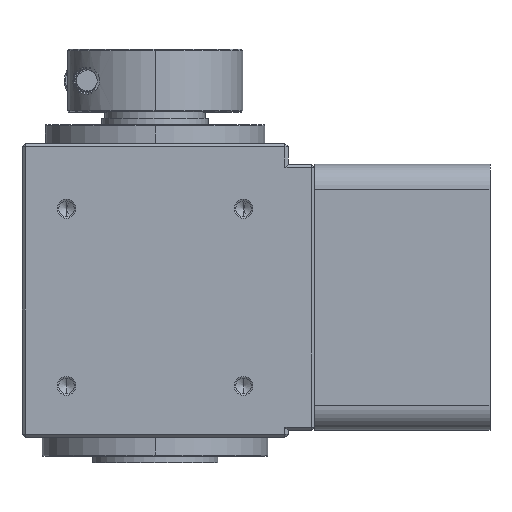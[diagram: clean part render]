
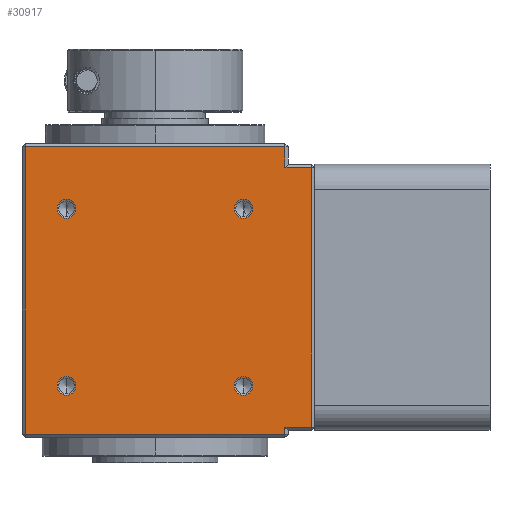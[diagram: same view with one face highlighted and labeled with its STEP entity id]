
A CAD part, left-side view. The second image highlights one B-rep face of the part: STEP entity #30917.
In plain terms, the highlighted planar face has unit normal (-1, 0, 0) as drawn and (1, 0, 0) by its records, which use the part's own axes.
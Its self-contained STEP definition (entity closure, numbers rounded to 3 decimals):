
#44 = EDGE_CURVE ( 'NONE', #36741, #26843, #20372, .T. ) ;
#241 = ORIENTED_EDGE ( 'NONE', *, *, #31885, .T. ) ;
#384 = EDGE_CURVE ( 'NONE', #19341, #25240, #38562, .T. ) ;
#635 = CARTESIAN_POINT ( 'NONE',  ( 21.25, 14.142, 41.742 ) ) ;
#690 = DIRECTION ( 'NONE',  ( 0., 0., -1. ) ) ;
#691 = EDGE_CURVE ( 'NONE', #18721, #19990, #4884, .T. ) ;
#1015 = VERTEX_POINT ( 'NONE', #34637 ) ;
#1069 = VECTOR ( 'NONE', #7686, 1000. ) ;
#1073 = DIRECTION ( 'NONE',  ( 0., 0., -1. ) ) ;
#2012 = VECTOR ( 'NONE', #14882, 1000. ) ;
#2818 = AXIS2_PLACEMENT_3D ( 'NONE', #16964, #23906, #37990 ) ;
#2973 = EDGE_LOOP ( 'NONE', ( #5615, #28570 ) ) ;
#3079 = DIRECTION ( 'NONE',  ( -1., 0., 0. ) ) ;
#3448 = ORIENTED_EDGE ( 'NONE', *, *, #10762, .T. ) ;
#3676 = CARTESIAN_POINT ( 'NONE',  ( 21.25, -21.25, 53. ) ) ;
#3906 = AXIS2_PLACEMENT_3D ( 'NONE', #42025, #45594, #24795 ) ;
#4258 = CARTESIAN_POINT ( 'NONE',  ( 21.25, 14.142, 41.742 ) ) ;
#4350 = ORIENTED_EDGE ( 'NONE', *, *, #24270, .T. ) ;
#4884 = CIRCLE ( 'NONE', #2818, 1.5 ) ;
#5037 = VERTEX_POINT ( 'NONE', #38879 ) ;
#5615 = ORIENTED_EDGE ( 'NONE', *, *, #7403, .F. ) ;
#5861 = ORIENTED_EDGE ( 'NONE', *, *, #26280, .T. ) ;
#6062 = DIRECTION ( 'NONE',  ( 0., 0., -1. ) ) ;
#6571 = FACE_BOUND ( 'NONE', #17744, .T. ) ;
#6663 = EDGE_CURVE ( 'NONE', #25240, #41050, #45424, .T. ) ;
#6786 = CARTESIAN_POINT ( 'NONE',  ( 21.25, 14.142, 11.958 ) ) ;
#7403 = EDGE_CURVE ( 'NONE', #1015, #25729, #32620, .T. ) ;
#7686 = DIRECTION ( 'NONE',  ( 0., 1., 0. ) ) ;
#7726 = DIRECTION ( 'NONE',  ( 1., 0., 0. ) ) ;
#7888 = CIRCLE ( 'NONE', #21883, 1.5 ) ;
#8305 = VERTEX_POINT ( 'NONE', #43756 ) ;
#8831 = CARTESIAN_POINT ( 'NONE',  ( 21.25, 14.142, 43.242 ) ) ;
#9479 = CARTESIAN_POINT ( 'NONE',  ( 21.25, -14.142, 40.242 ) ) ;
#9984 = EDGE_CURVE ( 'NONE', #5037, #12889, #31337, .T. ) ;
#10468 = VERTEX_POINT ( 'NONE', #33596 ) ;
#10588 = DIRECTION ( 'NONE',  ( 0., 0., -1. ) ) ;
#10762 = EDGE_CURVE ( 'NONE', #26843, #16111, #40158, .T. ) ;
#11249 = ORIENTED_EDGE ( 'NONE', *, *, #44, .T. ) ;
#11372 = LINE ( 'NONE', #14729, #2012 ) ;
#11489 = FACE_BOUND ( 'NONE', #25896, .T. ) ;
#11669 = CARTESIAN_POINT ( 'NONE',  ( 21.25, -20.75, 6.85 ) ) ;
#11772 = DIRECTION ( 'NONE',  ( 0., 0., -1. ) ) ;
#12097 = VERTEX_POINT ( 'NONE', #9479 ) ;
#12667 = AXIS2_PLACEMENT_3D ( 'NONE', #39883, #18707, #11772 ) ;
#12889 = VERTEX_POINT ( 'NONE', #40761 ) ;
#12912 = LINE ( 'NONE', #24371, #43889 ) ;
#13025 = CIRCLE ( 'NONE', #16034, 1.5 ) ;
#13767 = EDGE_CURVE ( 'NONE', #41050, #41184, #28455, .T. ) ;
#14326 = CARTESIAN_POINT ( 'NONE',  ( 21.25, -21.25, 6.85 ) ) ;
#14549 = AXIS2_PLACEMENT_3D ( 'NONE', #20573, #30793, #16592 ) ;
#14720 = VECTOR ( 'NONE', #42007, 1000. ) ;
#14729 = CARTESIAN_POINT ( 'NONE',  ( 21.25, 21.25, 3.5 ) ) ;
#14882 = DIRECTION ( 'NONE',  ( 0., 1., 0. ) ) ;
#15064 = ORIENTED_EDGE ( 'NONE', *, *, #44789, .F. ) ;
#15513 = CIRCLE ( 'NONE', #35647, 1.5 ) ;
#15851 = ORIENTED_EDGE ( 'NONE', *, *, #691, .F. ) ;
#16034 = AXIS2_PLACEMENT_3D ( 'NONE', #31186, #41258, #6062 ) ;
#16111 = VERTEX_POINT ( 'NONE', #27638 ) ;
#16592 = DIRECTION ( 'NONE',  ( 0., 0., -1. ) ) ;
#16964 = CARTESIAN_POINT ( 'NONE',  ( 21.25, 14.142, 13.458 ) ) ;
#17138 = CARTESIAN_POINT ( 'NONE',  ( 21.25, -21.25, 49.5 ) ) ;
#17249 = CARTESIAN_POINT ( 'NONE',  ( 21.25, -25.5, 48.35 ) ) ;
#17255 = ORIENTED_EDGE ( 'NONE', *, *, #384, .T. ) ;
#17744 = EDGE_LOOP ( 'NONE', ( #15064, #15851 ) ) ;
#17970 = ORIENTED_EDGE ( 'NONE', *, *, #6663, .T. ) ;
#18366 = EDGE_CURVE ( 'NONE', #25729, #1015, #15513, .T. ) ;
#18479 = ORIENTED_EDGE ( 'NONE', *, *, #33117, .F. ) ;
#18707 = DIRECTION ( 'NONE',  ( 1., 0., 0. ) ) ;
#18721 = VERTEX_POINT ( 'NONE', #41483 ) ;
#19341 = VERTEX_POINT ( 'NONE', #28918 ) ;
#19990 = VERTEX_POINT ( 'NONE', #6786 ) ;
#20372 = LINE ( 'NONE', #14326, #1069 ) ;
#20573 = CARTESIAN_POINT ( 'NONE',  ( 21.25, -14.142, 41.742 ) ) ;
#20771 = DIRECTION ( 'NONE',  ( 0., 0., 1. ) ) ;
#20864 = FACE_OUTER_BOUND ( 'NONE', #32766, .T. ) ;
#21276 = AXIS2_PLACEMENT_3D ( 'NONE', #3676, #3079, #20771 ) ;
#21412 = VECTOR ( 'NONE', #41680, 1000. ) ;
#21813 = VECTOR ( 'NONE', #27114, 1000. ) ;
#21883 = AXIS2_PLACEMENT_3D ( 'NONE', #43403, #36405, #1073 ) ;
#23089 = FACE_BOUND ( 'NONE', #33884, .T. ) ;
#23447 = ORIENTED_EDGE ( 'NONE', *, *, #13767, .T. ) ;
#23906 = DIRECTION ( 'NONE',  ( 1., 0., 0. ) ) ;
#24270 = EDGE_CURVE ( 'NONE', #16111, #19341, #11372, .T. ) ;
#24371 = CARTESIAN_POINT ( 'NONE',  ( 21.25, -25., 53. ) ) ;
#24637 = CARTESIAN_POINT ( 'NONE',  ( 21.25, -20.75, 49.5 ) ) ;
#24755 = PLANE ( 'NONE',  #21276 ) ;
#24795 = DIRECTION ( 'NONE',  ( 0., 0., -1. ) ) ;
#25162 = CIRCLE ( 'NONE', #14549, 1.5 ) ;
#25240 = VERTEX_POINT ( 'NONE', #29355 ) ;
#25729 = VERTEX_POINT ( 'NONE', #8831 ) ;
#25896 = EDGE_LOOP ( 'NONE', ( #30252, #40249 ) ) ;
#26010 = AXIS2_PLACEMENT_3D ( 'NONE', #4258, #29392, #690 ) ;
#26280 = EDGE_CURVE ( 'NONE', #8305, #36741, #12912, .T. ) ;
#26843 = VERTEX_POINT ( 'NONE', #11669 ) ;
#27114 = DIRECTION ( 'NONE',  ( 0., 0., -1. ) ) ;
#27304 = CARTESIAN_POINT ( 'NONE',  ( 21.25, -25., 6.85 ) ) ;
#27638 = CARTESIAN_POINT ( 'NONE',  ( 21.25, -20.75, 3.5 ) ) ;
#28056 = FACE_BOUND ( 'NONE', #2973, .T. ) ;
#28174 = CARTESIAN_POINT ( 'NONE',  ( 21.25, -20.75, 53. ) ) ;
#28244 = DIRECTION ( 'NONE',  ( 0., -1., 0. ) ) ;
#28455 = LINE ( 'NONE', #33905, #21813 ) ;
#28570 = ORIENTED_EDGE ( 'NONE', *, *, #18366, .F. ) ;
#28918 = CARTESIAN_POINT ( 'NONE',  ( 21.25, 20.75, 3.5 ) ) ;
#29355 = CARTESIAN_POINT ( 'NONE',  ( 21.25, 20.75, 49.5 ) ) ;
#29392 = DIRECTION ( 'NONE',  ( 1., 0., 0. ) ) ;
#30252 = ORIENTED_EDGE ( 'NONE', *, *, #43057, .F. ) ;
#30793 = DIRECTION ( 'NONE',  ( 1., 0., 0. ) ) ;
#30917 = ADVANCED_FACE ( 'NONE', ( #20864, #11489, #23089, #28056, #6571 ), #24755, .F. ) ;
#30977 = CARTESIAN_POINT ( 'NONE',  ( 21.25, 20.75, 53. ) ) ;
#31186 = CARTESIAN_POINT ( 'NONE',  ( 21.25, 14.142, 13.458 ) ) ;
#31337 = CIRCLE ( 'NONE', #12667, 1.5 ) ;
#31501 = DIRECTION ( 'NONE',  ( 0., 0., -1. ) ) ;
#31671 = CIRCLE ( 'NONE', #3906, 1.5 ) ;
#31885 = EDGE_CURVE ( 'NONE', #41184, #8305, #41846, .T. ) ;
#32620 = CIRCLE ( 'NONE', #26010, 1.5 ) ;
#32766 = EDGE_LOOP ( 'NONE', ( #5861, #11249, #3448, #4350, #17255, #17970, #23447, #241 ) ) ;
#32964 = ORIENTED_EDGE ( 'NONE', *, *, #43675, .F. ) ;
#33117 = EDGE_CURVE ( 'NONE', #12097, #10468, #25162, .T. ) ;
#33596 = CARTESIAN_POINT ( 'NONE',  ( 21.25, -14.142, 43.242 ) ) ;
#33884 = EDGE_LOOP ( 'NONE', ( #18479, #32964 ) ) ;
#33905 = CARTESIAN_POINT ( 'NONE',  ( 21.25, -20.75, 53. ) ) ;
#34637 = CARTESIAN_POINT ( 'NONE',  ( 21.25, 14.142, 40.242 ) ) ;
#35647 = AXIS2_PLACEMENT_3D ( 'NONE', #635, #7726, #42671 ) ;
#35707 = VECTOR ( 'NONE', #10588, 1000. ) ;
#36405 = DIRECTION ( 'NONE',  ( 1., 0., 0. ) ) ;
#36741 = VERTEX_POINT ( 'NONE', #27304 ) ;
#37990 = DIRECTION ( 'NONE',  ( 0., 0., -1. ) ) ;
#38562 = LINE ( 'NONE', #30977, #21412 ) ;
#38879 = CARTESIAN_POINT ( 'NONE',  ( 21.25, -14.142, 14.958 ) ) ;
#39419 = CARTESIAN_POINT ( 'NONE',  ( 21.25, -20.75, 48.35 ) ) ;
#39812 = VECTOR ( 'NONE', #28244, 1000. ) ;
#39883 = CARTESIAN_POINT ( 'NONE',  ( 21.25, -14.142, 13.458 ) ) ;
#40158 = LINE ( 'NONE', #28174, #35707 ) ;
#40249 = ORIENTED_EDGE ( 'NONE', *, *, #9984, .F. ) ;
#40761 = CARTESIAN_POINT ( 'NONE',  ( 21.25, -14.142, 11.958 ) ) ;
#41050 = VERTEX_POINT ( 'NONE', #24637 ) ;
#41184 = VERTEX_POINT ( 'NONE', #39419 ) ;
#41258 = DIRECTION ( 'NONE',  ( 1., 0., 0. ) ) ;
#41483 = CARTESIAN_POINT ( 'NONE',  ( 21.25, 14.142, 14.958 ) ) ;
#41680 = DIRECTION ( 'NONE',  ( 0., 0., 1. ) ) ;
#41846 = LINE ( 'NONE', #17249, #14720 ) ;
#42007 = DIRECTION ( 'NONE',  ( 0., -1., 0. ) ) ;
#42025 = CARTESIAN_POINT ( 'NONE',  ( 21.25, -14.142, 13.458 ) ) ;
#42671 = DIRECTION ( 'NONE',  ( 0., 0., -1. ) ) ;
#43057 = EDGE_CURVE ( 'NONE', #12889, #5037, #31671, .T. ) ;
#43403 = CARTESIAN_POINT ( 'NONE',  ( 21.25, -14.142, 41.742 ) ) ;
#43675 = EDGE_CURVE ( 'NONE', #10468, #12097, #7888, .T. ) ;
#43756 = CARTESIAN_POINT ( 'NONE',  ( 21.25, -25., 48.35 ) ) ;
#43889 = VECTOR ( 'NONE', #31501, 1000. ) ;
#44789 = EDGE_CURVE ( 'NONE', #19990, #18721, #13025, .T. ) ;
#45424 = LINE ( 'NONE', #17138, #39812 ) ;
#45594 = DIRECTION ( 'NONE',  ( 1., 0., 0. ) ) ;
